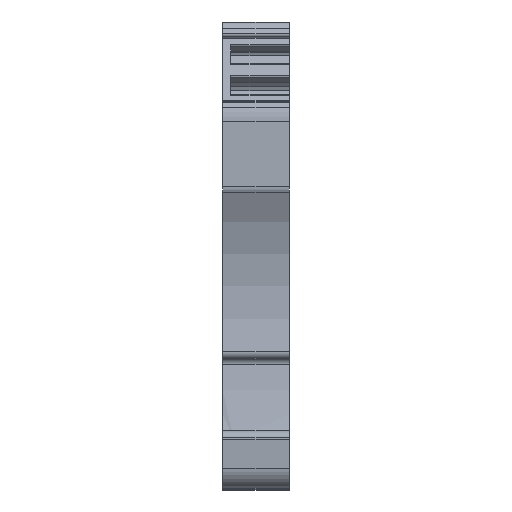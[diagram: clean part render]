
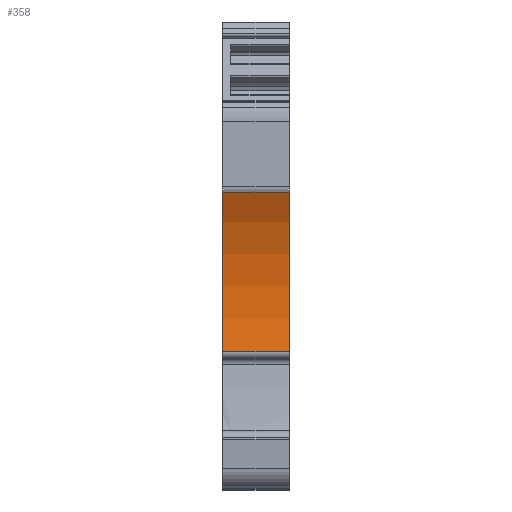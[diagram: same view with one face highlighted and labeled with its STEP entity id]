
A CAD part, top view. The second image highlights one B-rep face of the part: STEP entity #358.
In plain terms, the highlighted cylindrical face has radius 20 mm (diameter 39.999 mm), a partial arc.
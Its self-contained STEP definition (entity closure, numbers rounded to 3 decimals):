
#358 = ADVANCED_FACE( '', ( #934 ), #935, .F. );
#934 = FACE_OUTER_BOUND( '', #1515, .T. );
#935 = CYLINDRICAL_SURFACE( '', #1516, 20. );
#1515 = EDGE_LOOP( '', ( #3889, #3890, #3891, #3892 ) );
#1516 = AXIS2_PLACEMENT_3D( '', #3893, #3894, #3895 );
#3889 = ORIENTED_EDGE( '', *, *, #4220, .T. );
#3890 = ORIENTED_EDGE( '', *, *, #4878, .F. );
#3891 = ORIENTED_EDGE( '', *, *, #4879, .T. );
#3892 = ORIENTED_EDGE( '', *, *, #4876, .T. );
#3893 = CARTESIAN_POINT( '', ( 0., 10.561, 66.576 ) );
#3894 = DIRECTION( '', ( -1., 0., 0. ) );
#3895 = DIRECTION( '', ( 0., 0.473, -0.881 ) );
#4220 = EDGE_CURVE( '', #5187, #5185, #5188, .T. );
#4876 = EDGE_CURVE( '', #6261, #5187, #6262, .T. );
#4878 = EDGE_CURVE( '', #6264, #5185, #6265, .T. );
#4879 = EDGE_CURVE( '', #6264, #6261, #6266, .T. );
#5185 = VERTEX_POINT( '', #6723 );
#5187 = VERTEX_POINT( '', #6725 );
#5188 = CIRCLE( '', #6726, 20. );
#6261 = VERTEX_POINT( '', #8303 );
#6262 = LINE( '', #8304, #8305 );
#6264 = VERTEX_POINT( '', #8307 );
#6265 = LINE( '', #8308, #8309 );
#6266 = CIRCLE( '', #8310, 20. );
#6723 = CARTESIAN_POINT( '', ( 6.1, 20.03, 48.96 ) );
#6725 = CARTESIAN_POINT( '', ( 6.1, 5.477, 47.234 ) );
#6726 = AXIS2_PLACEMENT_3D( '', #8566, #8567, #8568 );
#8303 = CARTESIAN_POINT( '', ( 0., 5.477, 47.234 ) );
#8304 = CARTESIAN_POINT( '', ( 0., 5.477, 47.234 ) );
#8305 = VECTOR( '', #9606, 1. );
#8307 = CARTESIAN_POINT( '', ( 0., 20.03, 48.96 ) );
#8308 = CARTESIAN_POINT( '', ( 0., 20.03, 48.96 ) );
#8309 = VECTOR( '', #9610, 1. );
#8310 = AXIS2_PLACEMENT_3D( '', #9611, #9612, #9613 );
#8566 = CARTESIAN_POINT( '', ( 6.1, 10.561, 66.576 ) );
#8567 = DIRECTION( '', ( 1., 0., 0. ) );
#8568 = DIRECTION( '', ( 0., 0.473, -0.881 ) );
#9606 = DIRECTION( '', ( 1., 0., 0. ) );
#9610 = DIRECTION( '', ( 1., 0., 0. ) );
#9611 = CARTESIAN_POINT( '', ( 0., 10.561, 66.576 ) );
#9612 = DIRECTION( '', ( -1., 0., 0. ) );
#9613 = DIRECTION( '', ( 0., 0.473, -0.881 ) );
